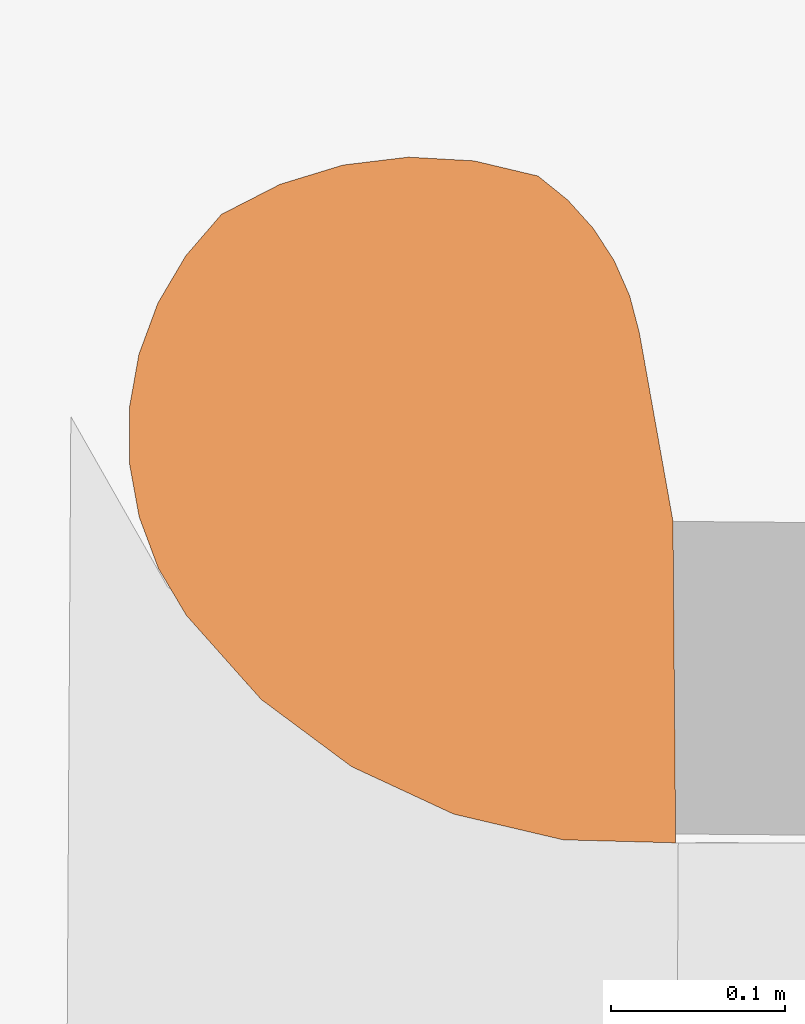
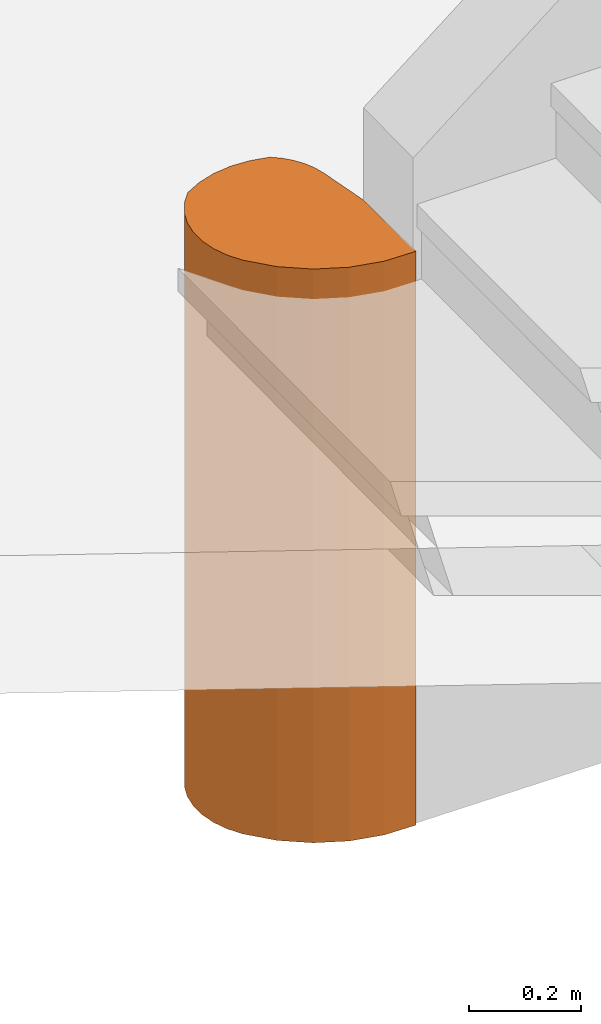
# One storey, part 128 of 133: 1 proxy.
"""IFC2X3 building model written with IfcOpenShell, lengths in centimetres."""

from ifc_helpers import new_model, entity, si_unit, converted_unit, direction, frame, origin, origin_with_axes, place, context, subcontext, project, spatial, faceted_brep, material, element, save


model = new_model("IFC2X3")

# Units and contexts
model_context = context("Model", 3, precision=0.0001, world=origin(), true_north=direction((0.225632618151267, 0.974212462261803, 0.0)))
body_context = subcontext(model_context, "Body", "Model", "MODEL_VIEW")
ifc_project = project(units=[si_unit("LENGTHUNIT", "METRE", prefix="CENTI"), si_unit("AREAUNIT", "SQUARE_METRE", prefix="CENTI"), si_unit("VOLUMEUNIT", "CUBIC_METRE", prefix="CENTI"), converted_unit("PLANEANGLEUNIT", "DEGREE", entity("IfcRatioMeasure", 0.0174532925), si_unit("PLANEANGLEUNIT", "RADIAN"), dimensions=[0, 0, 0, 0, 0, 0, 0])], contexts=[model_context])

# Site, building, storey
site_placement = place(None, origin_with_axes())
site = spatial("IfcSite", under=ifc_project, at=site_placement, Name="Default Site", CompositionType="ELEMENT")
building_placement = place(site_placement, origin_with_axes())
building = spatial("IfcBuilding", under=site, at=building_placement, Name="Default Building", CompositionType="ELEMENT")
storey_placement = place(building_placement, frame((0.0, 0.0, -291.400371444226), z_axis=(0.0, 0.0, 1.0), x_axis=(1.0, 0.0, 0.0)))
storey = spatial("IfcBuildingStorey", under=building, at=storey_placement, Name="Rez-de-Jardin", CompositionType="ELEMENT", Elevation=-291.400371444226)

# Proxy
ifc_material = material(Name="Blanc")
proxy_placement = place(storey_placement, frame((-1588.16, 83.31, 0.0), z_axis=(0.0, 0.0, 1.0), x_axis=(1.0, 0.0, 0.0)))
element("IfcBuildingElementProxy", 1, at=proxy_placement, inside=storey, material=ifc_material, Name="Encombrement 322631", context=body_context, shape_type="Brep", body=[
    faceted_brep([(-3.79943847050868e-05, 2.08854674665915e-06, 125.000368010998), (-0.558509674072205, 2.13384241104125, 125.000368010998), (-1.44752487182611, 4.15247887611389, 125.000368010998), (-2.64457687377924, 6.00506276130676, 125.000368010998), (-4.11972030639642, 7.64495343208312, 125.000368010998), (-5.83566650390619, 9.03085083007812, 125.000368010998), (-9.52400192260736, 9.90544766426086, 125.000368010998), (-13.3086584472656, 10.1183673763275, 125.000368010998), (-17.0718572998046, 9.66298192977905, 125.000368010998), (-20.6963919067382, 8.55346530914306, 125.000368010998), (-24.0697286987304, 6.82433456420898, 125.000368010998), (-26.1277578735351, 4.43303197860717, 125.000368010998), (-27.729549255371, 1.71491116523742, 125.000368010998), (-28.8245581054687, -1.24402433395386, 125.000368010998), (-29.3776892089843, -4.35012966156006, 125.000368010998), (-29.3719671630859, -7.50512271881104, 125.000368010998), (-28.8072012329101, -10.609165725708, 125.000368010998), (-27.7013204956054, -13.5640361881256, 125.000368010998), (-26.0896109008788, -16.2762203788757, 125.000368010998), (-21.7791937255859, -21.1181917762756, 125.000368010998), (-16.5767095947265, -24.9856451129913, 125.000368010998), (-10.6982611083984, -27.7179160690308, 125.000368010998), (-4.38770278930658, -29.2014935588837, 125.000368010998), (2.09241882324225, -29.3747583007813, 125.000368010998), (1.93773284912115, -10.8611801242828, 125.000368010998), (-3.79943847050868e-05, 2.08854674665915e-06, 1.03831293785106e-05), (-0.558517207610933, 2.13384043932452, 1.03831293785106e-05), (-0.558517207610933, 2.13384043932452, 125.000368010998), (-0.558509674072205, 2.13384241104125, 1.03831293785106e-05), (-1.44751214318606, 4.15248448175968, 1.03831293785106e-05), (-1.44751214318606, 4.15248448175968, 125.000368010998), (-1.44752487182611, 4.15247887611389, 1.03831293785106e-05), (-2.64462963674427, 6.00502866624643, 1.03831293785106e-05), (-2.64462963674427, 6.00502866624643, 125.000368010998), (-2.64457687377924, 6.00506276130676, 1.03831293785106e-05), (-4.11970425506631, 7.64496787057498, 1.03831293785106e-05), (-4.11970425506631, 7.64496787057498, 125.000368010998), (-4.11972030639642, 7.64495343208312, 1.03831293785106e-05), (-5.83566920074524, 9.03084749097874, 1.03831293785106e-05), (-5.83566920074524, 9.03084749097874, 125.000368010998), (-5.83566650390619, 9.03085083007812, 1.03831293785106e-05), (-9.5240024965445, 9.90544524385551, 1.03831293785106e-05), (-9.5240024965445, 9.90544524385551, 125.000368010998), (-9.52400192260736, 9.90544766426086, 1.03831293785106e-05), (-13.3086584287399, 10.1183677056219, 1.03831293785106e-05), (-13.3086584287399, 10.1183677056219, 125.000368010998), (-13.3086584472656, 10.1183673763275, 1.03831293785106e-05), (-17.0718570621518, 9.66297996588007, 1.03831293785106e-05), (-17.0718570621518, 9.66297996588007, 125.000368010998), (-17.0718572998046, 9.66298192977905, 1.03831293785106e-05), (-20.6963980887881, 8.5534855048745, 1.03831293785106e-05), (-20.6963980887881, 8.5534855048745, 125.000368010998), (-20.6963919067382, 8.55346530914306, 1.03831293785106e-05), (-24.0697155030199, 6.82430882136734, 1.03831293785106e-05), (-24.0697155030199, 6.82430882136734, 125.000368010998), (-24.0697286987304, 6.82433456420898, 1.03831293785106e-05), (-26.1277876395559, 4.43305759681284, 1.03831293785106e-05), (-26.1277876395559, 4.43305759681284, 125.000368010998), (-26.1277578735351, 4.43303197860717, 1.03831293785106e-05), (-27.729568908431, 1.71492274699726, 1.03831293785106e-05), (-27.729568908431, 1.71492274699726, 125.000368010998), (-27.729549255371, 1.71491116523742, 1.03831293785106e-05), (-28.8244372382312, -1.24406905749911, 1.03831293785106e-05), (-28.8244372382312, -1.24406905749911, 125.000368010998), (-28.8245581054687, -1.24402433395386, 1.03831293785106e-05), (-29.3778280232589, -4.35010493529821, 1.03831293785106e-05), (-29.3778280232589, -4.35010493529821, 125.000368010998), (-29.3776892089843, -4.35012966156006, 1.03831293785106e-05), (-29.3718606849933, -7.50512252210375, 1.03831293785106e-05), (-29.3718606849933, -7.50512252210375, 125.000368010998), (-29.3719671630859, -7.50512271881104, 1.03831293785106e-05), (-28.8072190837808, -10.6091689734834, 1.03831293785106e-05), (-28.8072190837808, -10.6091689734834, 125.000368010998), (-28.8072012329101, -10.609165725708, 1.03831293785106e-05), (-27.7013941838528, -13.5640637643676, 1.03831293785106e-05), (-27.7013941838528, -13.5640637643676, 125.000368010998), (-27.7013204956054, -13.5640361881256, 1.03831293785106e-05), (-26.0895071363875, -16.276158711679, 1.03831293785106e-05), (-26.0895071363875, -16.276158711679, 125.000368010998), (-26.0896109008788, -16.2762203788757, 1.03831293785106e-05), (-21.7792836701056, -21.1182718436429, 1.03831293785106e-05), (-21.7792836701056, -21.1182718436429, 125.000368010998), (-21.7791937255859, -21.1181917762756, 1.03831293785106e-05), (-16.576710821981, -24.9856467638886, 1.03831293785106e-05), (-16.576710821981, -24.9856467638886, 125.000368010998), (-16.5767095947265, -24.9856451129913, 1.03831293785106e-05), (-10.6982374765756, -27.7178652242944, 1.03831293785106e-05), (-10.6982374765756, -27.7178652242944, 125.000368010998), (-10.6982611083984, -27.7179160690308, 1.03831293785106e-05), (-4.38770842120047, -29.2015175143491, 1.03831293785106e-05), (-4.38770842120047, -29.2015175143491, 125.000368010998), (-4.38770278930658, -29.2014935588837, 1.03831293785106e-05), (2.09241900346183, -29.3747515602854, 1.03831293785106e-05), (2.09241900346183, -29.3747515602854, 125.000368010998), (2.09241882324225, -29.3747583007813, 1.03831293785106e-05), (1.93774715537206, -10.8611800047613, 1.03831293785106e-05), (1.93774715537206, -10.8611800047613, 125.000368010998), (1.93773284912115, -10.8611801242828, 1.03831293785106e-05), (-4.59308636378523e-05, 6.72573589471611e-07, 1.03831293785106e-05), (-4.59308636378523e-05, 6.72573589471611e-07, 125.000368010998)], [[[0, 1, 2, 3, 4, 5, 6, 7, 8, 9, 10, 11, 12, 13, 14, 15, 16, 17, 18, 19, 20, 21, 22, 23, 24]], [[25, 26, 27, 0]], [[28, 29, 30, 1]], [[31, 32, 33, 2]], [[34, 35, 36, 3]], [[37, 38, 39, 4]], [[40, 41, 42, 5]], [[43, 44, 45, 6]], [[46, 47, 48, 7]], [[49, 50, 51, 8]], [[52, 53, 54, 9]], [[55, 56, 57, 10]], [[58, 59, 60, 11]], [[61, 62, 63, 12]], [[64, 65, 66, 13]], [[67, 68, 69, 14]], [[70, 71, 72, 15]], [[73, 74, 75, 16]], [[76, 77, 78, 17]], [[79, 80, 81, 18]], [[82, 83, 84, 19]], [[85, 86, 87, 20]], [[88, 89, 90, 21]], [[91, 92, 93, 22]], [[94, 95, 96, 23]], [[97, 98, 99, 24]], [[97, 94, 91, 88, 85, 82, 79, 76, 73, 70, 67, 64, 61, 58, 55, 52, 49, 46, 43, 40, 37, 34, 31, 28, 25]]]),
])

save(model, "model.ifc")
